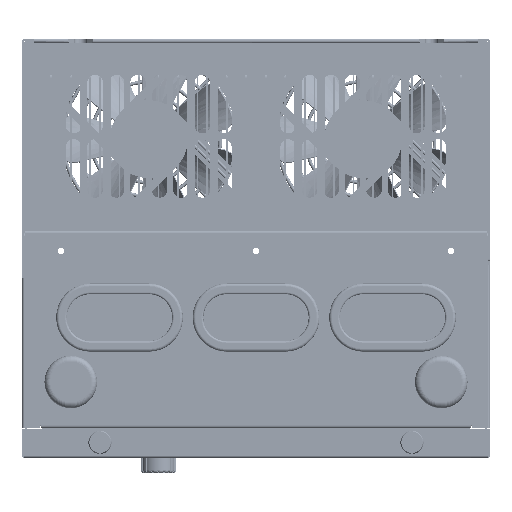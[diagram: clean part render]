
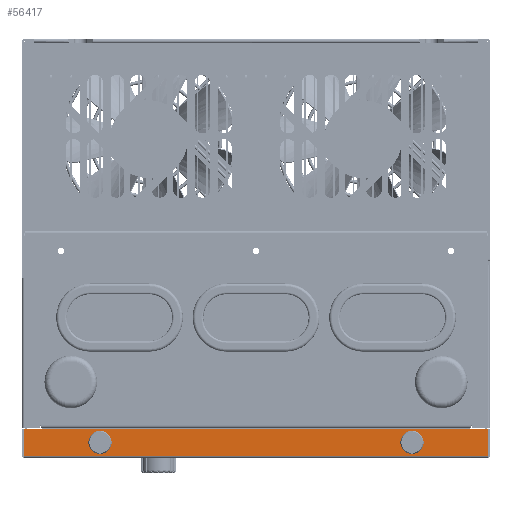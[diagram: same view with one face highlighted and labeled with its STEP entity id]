
A CAD part, left-side view. The second image highlights one B-rep face of the part: STEP entity #56417.
In plain terms, the highlighted planar face has unit normal (-1, 0, 0).
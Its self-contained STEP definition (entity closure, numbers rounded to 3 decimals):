
#54160=DIRECTION('',(0.,-1.,0.));
#54161=VECTOR('',#54160,237.6);
#54162=CARTESIAN_POINT('',(-189.5,118.8,-213.8));
#54163=LINE('',#54162,#54161);
#54304=DIRECTION('',(0.,0.,1.));
#54305=VECTOR('',#54304,13.8);
#54306=CARTESIAN_POINT('',(-189.5,-118.8,-213.8));
#54307=LINE('',#54306,#54305);
#54312=CARTESIAN_POINT('',(-189.5,80.,-207.));
#54313=DIRECTION('',(-1.,0.,0.));
#54314=DIRECTION('',(0.,-1.,0.));
#54315=AXIS2_PLACEMENT_3D('',#54312,#54313,#54314);
#54317=CARTESIAN_POINT('',(-189.5,80.,-207.));
#54318=DIRECTION('',(-1.,0.,0.));
#54319=DIRECTION('',(0.,1.,0.));
#54320=AXIS2_PLACEMENT_3D('',#54317,#54318,#54319);
#54322=CARTESIAN_POINT('',(-189.5,-80.,-207.));
#54323=DIRECTION('',(-1.,0.,0.));
#54324=DIRECTION('',(0.,-1.,0.));
#54325=AXIS2_PLACEMENT_3D('',#54322,#54323,#54324);
#54327=CARTESIAN_POINT('',(-189.5,-80.,-207.));
#54328=DIRECTION('',(-1.,0.,0.));
#54329=DIRECTION('',(0.,1.,0.));
#54330=AXIS2_PLACEMENT_3D('',#54327,#54328,#54329);
#54332=DIRECTION('',(0.,0.,-1.));
#54333=VECTOR('',#54332,13.8);
#54334=CARTESIAN_POINT('',(-189.5,118.8,-200.));
#54335=LINE('',#54334,#54333);
#54340=DIRECTION('',(0.,1.,0.));
#54341=VECTOR('',#54340,237.6);
#54342=CARTESIAN_POINT('',(-189.5,-118.8,-200.));
#54343=LINE('',#54342,#54341);
#55013=CARTESIAN_POINT('',(-189.5,-118.8,-213.8));
#55014=VERTEX_POINT('',#55013);
#55017=CARTESIAN_POINT('',(-189.5,118.8,-213.8));
#55018=VERTEX_POINT('',#55017);
#55053=CARTESIAN_POINT('',(-189.5,-118.8,-200.));
#55054=VERTEX_POINT('',#55053);
#55055=CARTESIAN_POINT('',(-189.5,118.8,-200.));
#55056=VERTEX_POINT('',#55055);
#55057=CARTESIAN_POINT('',(-189.5,76.8,-207.));
#55058=CARTESIAN_POINT('',(-189.5,83.2,-207.));
#55059=VERTEX_POINT('',#55057);
#55060=VERTEX_POINT('',#55058);
#55061=CARTESIAN_POINT('',(-189.5,-83.2,-207.));
#55062=CARTESIAN_POINT('',(-189.5,-76.8,-207.));
#55063=VERTEX_POINT('',#55061);
#55064=VERTEX_POINT('',#55062);
#56392=CARTESIAN_POINT('',(-189.5,-118.8,-215.));
#56393=DIRECTION('',(-1.,0.,0.));
#56394=DIRECTION('',(0.,-1.,0.));
#56395=AXIS2_PLACEMENT_3D('',#56392,#56393,#56394);
#56396=PLANE('',#56395);
#56397=ORIENTED_EDGE('',*,*,#56376,.F.);
#56398=ORIENTED_EDGE('',*,*,#56157,.F.);
#56400=ORIENTED_EDGE('',*,*,#56399,.F.);
#56402=ORIENTED_EDGE('',*,*,#56401,.F.);
#56403=EDGE_LOOP('',(#56397,#56398,#56400,#56402));
#56404=FACE_OUTER_BOUND('',#56403,.F.);
#56406=ORIENTED_EDGE('',*,*,#56405,.T.);
#56408=ORIENTED_EDGE('',*,*,#56407,.T.);
#56409=EDGE_LOOP('',(#56406,#56408));
#56410=FACE_BOUND('',#56409,.F.);
#56412=ORIENTED_EDGE('',*,*,#56411,.T.);
#56414=ORIENTED_EDGE('',*,*,#56413,.T.);
#56415=EDGE_LOOP('',(#56412,#56414));
#56416=FACE_BOUND('',#56415,.F.);
#54316=CIRCLE('',#54315,3.2);
#54321=CIRCLE('',#54320,3.2);
#54326=CIRCLE('',#54325,3.2);
#54331=CIRCLE('',#54330,3.2);
#56157=EDGE_CURVE('',#55018,#55014,#54163,.T.);
#56376=EDGE_CURVE('',#55014,#55054,#54307,.T.);
#56399=EDGE_CURVE('',#55056,#55018,#54335,.T.);
#56401=EDGE_CURVE('',#55054,#55056,#54343,.T.);
#56405=EDGE_CURVE('',#55059,#55060,#54316,.T.);
#56407=EDGE_CURVE('',#55060,#55059,#54321,.T.);
#56411=EDGE_CURVE('',#55063,#55064,#54326,.T.);
#56413=EDGE_CURVE('',#55064,#55063,#54331,.T.);
#56417=ADVANCED_FACE('',(#56404,#56410,#56416),#56396,.T.);
